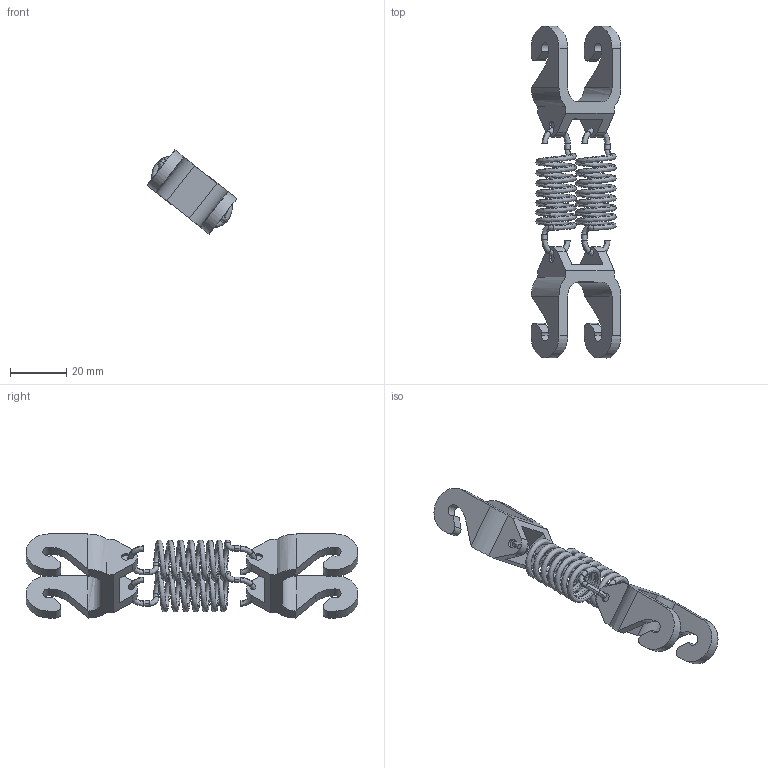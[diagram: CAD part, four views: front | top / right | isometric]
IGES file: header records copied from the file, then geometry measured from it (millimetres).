
Start section: SolidWorks IGES file using analytic representation for surfaces
Global section: file name: C:\Users\SELUHAA\OneDrive - ABB\Work items\609433\IRB360_8-1130-STD-4D_rev03\IRB360_8-1130-STD-4D_rev03_IGS_J\IRB360_8-1130-STD-4D_rev03_LA1_CU_CAD.igs; native system: SolidWorks 2022; preprocessor: SolidWorks 2022; author: SELUHAA; date: 250115.102549; units: millimetre
Bounding box: 31.9 x 118 x 29.88 mm (x, y, z)
Volume: 11802.7 mm3; surface area: 10699.5 mm2
Topology: 1 solids, 1 shells, 156 faces, 420 edges, 272 vertices
Faces by surface type: revolution 90, plane 54, bspline 12
